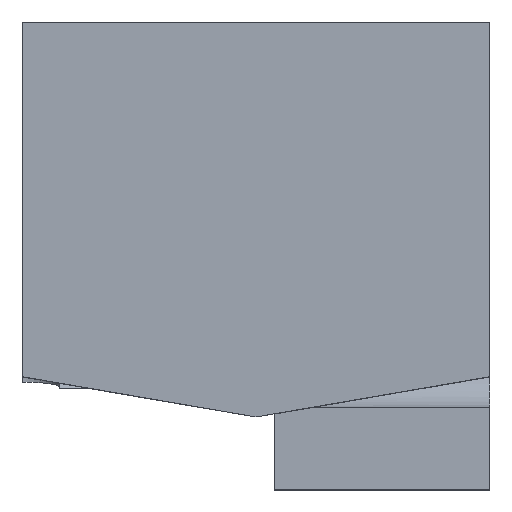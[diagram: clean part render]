
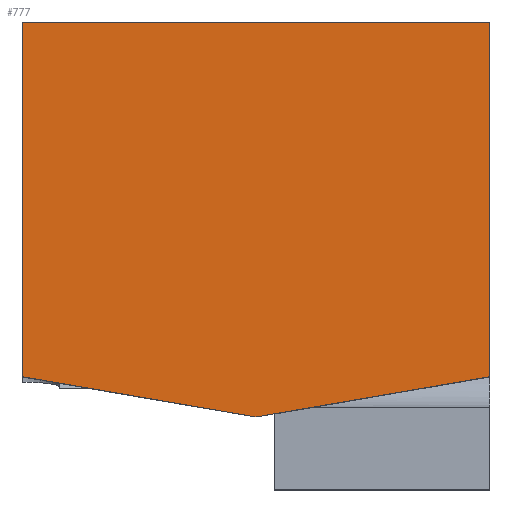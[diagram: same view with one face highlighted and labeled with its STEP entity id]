
A CAD part, top view. The second image highlights one B-rep face of the part: STEP entity #777.
In plain terms, the highlighted planar face has unit normal (0, 0, 1).
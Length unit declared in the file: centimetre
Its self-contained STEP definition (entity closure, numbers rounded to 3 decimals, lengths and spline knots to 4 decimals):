
#2 = CARTESIAN_POINT ( 'NONE',  ( 500., 154.7522, 1000. ) ) ;
#12 = VECTOR ( 'NONE', #867, 100. ) ;
#17 = VECTOR ( 'NONE', #26, 100. ) ;
#22 = EDGE_CURVE ( 'NONE', #984, #493, #629, .T. ) ;
#26 = DIRECTION ( 'NONE',  ( -1., 0., 0. ) ) ;
#52 = PLANE ( 'NONE',  #1314 ) ;
#62 = CARTESIAN_POINT ( 'NONE',  ( 1000., 240.7378, 1000. ) ) ;
#76 = VERTEX_POINT ( 'NONE', #1174 ) ;
#82 = VECTOR ( 'NONE', #125, 100. ) ;
#84 = EDGE_CURVE ( 'NONE', #493, #584, #405, .T. ) ;
#99 = VECTOR ( 'NONE', #127, 100. ) ;
#125 = DIRECTION ( 'NONE',  ( 0., -1., 0. ) ) ;
#127 = DIRECTION ( 'NONE',  ( -0.986, -0.169, 0. ) ) ;
#185 = VECTOR ( 'NONE', #1163, 100. ) ;
#405 = LINE ( 'NONE', #2, #185 ) ;
#464 = CARTESIAN_POINT ( 'NONE',  ( 0., 0., 1000. ) ) ;
#493 = VERTEX_POINT ( 'NONE', #1167 ) ;
#572 = LINE ( 'NONE', #1570, #82 ) ;
#584 = VERTEX_POINT ( 'NONE', #671 ) ;
#629 = LINE ( 'NONE', #1322, #99 ) ;
#671 = CARTESIAN_POINT ( 'NONE',  ( 0., 240.7378, 1000. ) ) ;
#683 = EDGE_CURVE ( 'NONE', #76, #584, #572, .T. ) ;
#777 = ADVANCED_FACE ( 'NONE', ( #1217 ), #52, .T. ) ;
#821 = CARTESIAN_POINT ( 'NONE',  ( 0., 1000., 1000. ) ) ;
#867 = DIRECTION ( 'NONE',  ( 0., 1., 0. ) ) ;
#902 = ORIENTED_EDGE ( 'NONE', *, *, #22, .F. ) ;
#980 = ORIENTED_EDGE ( 'NONE', *, *, #1419, .T. ) ;
#984 = VERTEX_POINT ( 'NONE', #62 ) ;
#998 = CARTESIAN_POINT ( 'NONE',  ( 1000., 1000., 1000. ) ) ;
#1014 = LINE ( 'NONE', #998, #12 ) ;
#1015 = ORIENTED_EDGE ( 'NONE', *, *, #683, .T. ) ;
#1070 = LINE ( 'NONE', #821, #17 ) ;
#1087 = EDGE_CURVE ( 'NONE', #984, #1685, #1014, .T. ) ;
#1091 = ORIENTED_EDGE ( 'NONE', *, *, #1087, .T. ) ;
#1093 = DIRECTION ( 'NONE',  ( 0., 0., 1. ) ) ;
#1144 = CARTESIAN_POINT ( 'NONE',  ( 1000., 1000., 1000. ) ) ;
#1163 = DIRECTION ( 'NONE',  ( -0.986, 0.169, 0. ) ) ;
#1167 = CARTESIAN_POINT ( 'NONE',  ( 500., 154.7522, 1000. ) ) ;
#1174 = CARTESIAN_POINT ( 'NONE',  ( 0., 1000., 1000. ) ) ;
#1217 = FACE_OUTER_BOUND ( 'NONE', #1379, .T. ) ;
#1314 = AXIS2_PLACEMENT_3D ( 'NONE', #464, #1093, #1506 ) ;
#1322 = CARTESIAN_POINT ( 'NONE',  ( 1000., 240.7378, 1000. ) ) ;
#1379 = EDGE_LOOP ( 'NONE', ( #1665, #902, #1091, #980, #1015 ) ) ;
#1419 = EDGE_CURVE ( 'NONE', #1685, #76, #1070, .T. ) ;
#1506 = DIRECTION ( 'NONE',  ( 1., 0., 0. ) ) ;
#1570 = CARTESIAN_POINT ( 'NONE',  ( 0., 1000., 1000. ) ) ;
#1665 = ORIENTED_EDGE ( 'NONE', *, *, #84, .F. ) ;
#1685 = VERTEX_POINT ( 'NONE', #1144 ) ;
